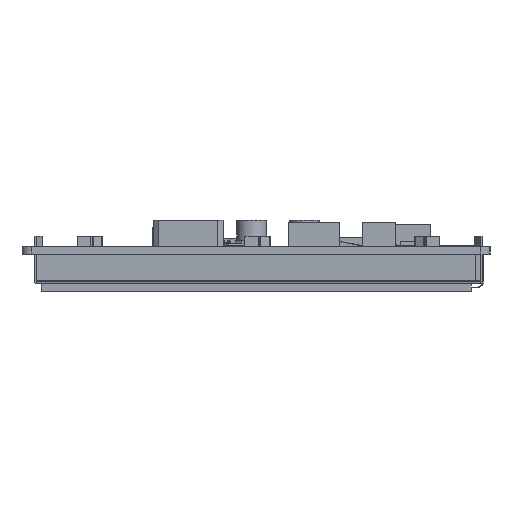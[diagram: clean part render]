
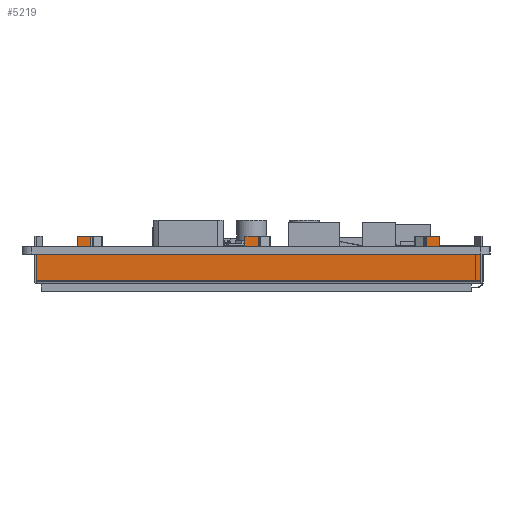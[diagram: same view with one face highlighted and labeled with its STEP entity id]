
A CAD part, left-side view. The second image highlights one B-rep face of the part: STEP entity #5219.
In plain terms, the highlighted planar face has unit normal (-1, 0, 0).
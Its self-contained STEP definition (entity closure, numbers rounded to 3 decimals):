
#5219=ADVANCED_FACE('',(#9873),#7366,.F.);
#7366=PLANE('',#57091);
#9873=FACE_OUTER_BOUND('',#12532,.T.);
#12532=EDGE_LOOP('',(#26298,#26299,#26300,#26301,#26302,#26303,#26304,#26305,
#26306,#26307,#26308,#26309,#26310,#26311,#26312,#26313,#26314,#26315,#26316));
#26298=ORIENTED_EDGE('',*,*,#38976,.T.);
#26299=ORIENTED_EDGE('',*,*,#38987,.T.);
#26300=ORIENTED_EDGE('',*,*,#38988,.F.);
#26301=ORIENTED_EDGE('',*,*,#38989,.T.);
#26302=ORIENTED_EDGE('',*,*,#38990,.F.);
#26303=ORIENTED_EDGE('',*,*,#38974,.T.);
#26304=ORIENTED_EDGE('',*,*,#38991,.T.);
#26305=ORIENTED_EDGE('',*,*,#38992,.F.);
#26306=ORIENTED_EDGE('',*,*,#38993,.F.);
#26307=ORIENTED_EDGE('',*,*,#38994,.T.);
#26308=ORIENTED_EDGE('',*,*,#38982,.T.);
#26309=ORIENTED_EDGE('',*,*,#38995,.T.);
#26310=ORIENTED_EDGE('',*,*,#38996,.F.);
#26311=ORIENTED_EDGE('',*,*,#38997,.F.);
#26312=ORIENTED_EDGE('',*,*,#38998,.T.);
#26313=ORIENTED_EDGE('',*,*,#38986,.T.);
#26314=ORIENTED_EDGE('',*,*,#38999,.F.);
#26315=ORIENTED_EDGE('',*,*,#39000,.F.);
#26316=ORIENTED_EDGE('',*,*,#39001,.T.);
#31835=VERTEX_POINT('',#84968);
#31837=VERTEX_POINT('',#84972);
#31838=VERTEX_POINT('',#84976);
#31840=VERTEX_POINT('',#84979);
#31843=VERTEX_POINT('',#84986);
#31845=VERTEX_POINT('',#84990);
#31847=VERTEX_POINT('',#84995);
#31849=VERTEX_POINT('',#84999);
#31850=VERTEX_POINT('',#85003);
#31851=VERTEX_POINT('',#85005);
#31852=VERTEX_POINT('',#85007);
#31853=VERTEX_POINT('',#85010);
#31854=VERTEX_POINT('',#85012);
#31855=VERTEX_POINT('',#85014);
#31856=VERTEX_POINT('',#85017);
#31857=VERTEX_POINT('',#85019);
#31858=VERTEX_POINT('',#85021);
#31859=VERTEX_POINT('',#85024);
#31860=VERTEX_POINT('',#85026);
#38974=EDGE_CURVE('',#31835,#31837,#46517,.T.);
#38976=EDGE_CURVE('',#31840,#31838,#46519,.T.);
#38982=EDGE_CURVE('',#31843,#31845,#46525,.T.);
#38986=EDGE_CURVE('',#31847,#31849,#46529,.T.);
#38987=EDGE_CURVE('',#31838,#31850,#46530,.T.);
#38988=EDGE_CURVE('',#31851,#31850,#46531,.T.);
#38989=EDGE_CURVE('',#31851,#31852,#46532,.T.);
#38990=EDGE_CURVE('',#31835,#31852,#46533,.T.);
#38991=EDGE_CURVE('',#31837,#31853,#46534,.T.);
#38992=EDGE_CURVE('',#31854,#31853,#46535,.T.);
#38993=EDGE_CURVE('',#31855,#31854,#46536,.T.);
#38994=EDGE_CURVE('',#31855,#31843,#46537,.T.);
#38995=EDGE_CURVE('',#31845,#31856,#46538,.T.);
#38996=EDGE_CURVE('',#31857,#31856,#46539,.T.);
#38997=EDGE_CURVE('',#31858,#31857,#46540,.T.);
#38998=EDGE_CURVE('',#31858,#31847,#46541,.T.);
#38999=EDGE_CURVE('',#31859,#31849,#46542,.T.);
#39000=EDGE_CURVE('',#31860,#31859,#46543,.T.);
#39001=EDGE_CURVE('',#31860,#31840,#46544,.T.);
#46517=LINE('',#84973,#52934);
#46519=LINE('',#84978,#52936);
#46525=LINE('',#84991,#52942);
#46529=LINE('',#85000,#52946);
#46530=LINE('',#85002,#52947);
#46531=LINE('',#85004,#52948);
#46532=LINE('',#85006,#52949);
#46533=LINE('',#85008,#52950);
#46534=LINE('',#85009,#52951);
#46535=LINE('',#85011,#52952);
#46536=LINE('',#85013,#52953);
#46537=LINE('',#85015,#52954);
#46538=LINE('',#85016,#52955);
#46539=LINE('',#85018,#52956);
#46540=LINE('',#85020,#52957);
#46541=LINE('',#85022,#52958);
#46542=LINE('',#85023,#52959);
#46543=LINE('',#85025,#52960);
#46544=LINE('',#85027,#52961);
#52934=VECTOR('',#69631,1.);
#52936=VECTOR('',#69635,1.);
#52942=VECTOR('',#69643,1.);
#52946=VECTOR('',#69649,1.);
#52947=VECTOR('',#69652,1.);
#52948=VECTOR('',#69653,1.);
#52949=VECTOR('',#69654,1.);
#52950=VECTOR('',#69655,1.);
#52951=VECTOR('',#69656,1.);
#52952=VECTOR('',#69657,1.);
#52953=VECTOR('',#69658,1.);
#52954=VECTOR('',#69659,1.);
#52955=VECTOR('',#69660,1.);
#52956=VECTOR('',#69661,1.);
#52957=VECTOR('',#69662,1.);
#52958=VECTOR('',#69663,1.);
#52959=VECTOR('',#69664,1.);
#52960=VECTOR('',#69665,1.);
#52961=VECTOR('',#69666,1.);
#57091=AXIS2_PLACEMENT_3D('',#85028,#69667,#69668);
#69631=DIRECTION('',(0.,1.,0.));
#69635=DIRECTION('',(0.,1.,0.));
#69643=DIRECTION('',(0.,1.,0.));
#69649=DIRECTION('',(0.,1.,0.));
#69652=DIRECTION('',(0.,0.,1.));
#69653=DIRECTION('',(0.,-1.,0.));
#69654=DIRECTION('',(0.,0.,-1.));
#69655=DIRECTION('',(0.,0.,1.));
#69656=DIRECTION('',(0.,0.,1.));
#69657=DIRECTION('',(0.,0.,-1.));
#69658=DIRECTION('',(0.,-1.,0.));
#69659=DIRECTION('',(0.,0.,-1.));
#69660=DIRECTION('',(0.,0.,1.));
#69661=DIRECTION('',(0.,0.,-1.));
#69662=DIRECTION('',(0.,-1.,0.));
#69663=DIRECTION('',(0.,0.,-1.));
#69664=DIRECTION('',(0.,0.,1.));
#69665=DIRECTION('',(0.,1.,0.));
#69666=DIRECTION('',(0.,0.,1.));
#69667=DIRECTION('',(1.,0.,0.));
#69668=DIRECTION('',(0.,1.,0.));
#84968=CARTESIAN_POINT('',(435.624,-41.014,-1.6));
#84972=CARTESIAN_POINT('',(435.624,-3.188,-1.6));
#84973=CARTESIAN_POINT('',(435.624,-53.245,-1.6));
#84976=CARTESIAN_POINT('',(435.624,-44.038,-1.6));
#84978=CARTESIAN_POINT('',(435.624,-53.245,-1.6));
#84979=CARTESIAN_POINT('',(435.624,-53.245,-1.6));
#84986=CARTESIAN_POINT('',(435.624,-0.18,-1.6));
#84990=CARTESIAN_POINT('',(435.624,34.5,-1.6));
#84991=CARTESIAN_POINT('',(435.624,-53.245,-1.6));
#84995=CARTESIAN_POINT('',(435.624,37.54,-1.6));
#84999=CARTESIAN_POINT('',(435.624,46.775,-1.6));
#85000=CARTESIAN_POINT('',(435.624,-53.245,-1.6));
#85002=CARTESIAN_POINT('',(435.624,-44.038,-1.6));
#85003=CARTESIAN_POINT('',(435.624,-44.038,2.4));
#85004=CARTESIAN_POINT('',(435.624,-41.014,2.4));
#85005=CARTESIAN_POINT('',(435.624,-41.014,2.4));
#85006=CARTESIAN_POINT('',(435.624,-41.014,2.4));
#85007=CARTESIAN_POINT('',(435.624,-41.014,0.));
#85008=CARTESIAN_POINT('',(435.624,-41.014,-1.6));
#85009=CARTESIAN_POINT('',(435.624,-3.188,-1.6));
#85010=CARTESIAN_POINT('',(435.624,-3.188,0.));
#85011=CARTESIAN_POINT('',(435.624,-3.188,2.4));
#85012=CARTESIAN_POINT('',(435.624,-3.188,2.4));
#85013=CARTESIAN_POINT('',(435.624,-0.18,2.4));
#85014=CARTESIAN_POINT('',(435.624,-0.18,2.4));
#85015=CARTESIAN_POINT('',(435.624,-0.18,2.4));
#85016=CARTESIAN_POINT('',(435.624,34.5,-1.6));
#85017=CARTESIAN_POINT('',(435.624,34.5,0.));
#85018=CARTESIAN_POINT('',(435.624,34.5,2.4));
#85019=CARTESIAN_POINT('',(435.624,34.5,2.4));
#85020=CARTESIAN_POINT('',(435.624,37.54,2.4));
#85021=CARTESIAN_POINT('',(435.624,37.54,2.4));
#85022=CARTESIAN_POINT('',(435.624,37.54,2.4));
#85023=CARTESIAN_POINT('',(435.624,46.775,-7.9));
#85024=CARTESIAN_POINT('',(435.624,46.775,-7.9));
#85025=CARTESIAN_POINT('',(435.624,-53.245,-7.9));
#85026=CARTESIAN_POINT('',(435.624,-53.245,-7.9));
#85027=CARTESIAN_POINT('',(435.624,-53.245,-7.9));
#85028=CARTESIAN_POINT('',(435.624,-53.245,-7.9));
